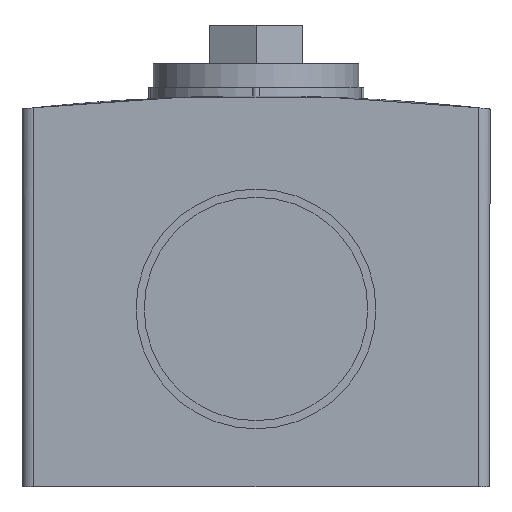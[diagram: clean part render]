
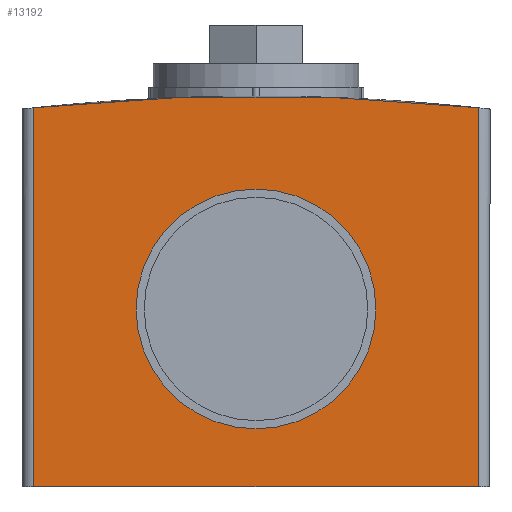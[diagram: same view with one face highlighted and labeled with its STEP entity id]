
A CAD part, front view. The second image highlights one B-rep face of the part: STEP entity #13192.
In plain terms, the highlighted planar face has unit normal (0, -1, 0).
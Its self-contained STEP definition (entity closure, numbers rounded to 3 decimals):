
#408 = CIRCLE ( 'NONE', #9406, 10.25 ) ;
#427 = VERTEX_POINT ( 'NONE', #8679 ) ;
#797 = ORIENTED_EDGE ( 'NONE', *, *, #20157, .F. ) ;
#1366 = EDGE_LOOP ( 'NONE', ( #28063, #11557 ) ) ;
#1926 = EDGE_LOOP ( 'NONE', ( #16390, #797, #21048, #16143 ) ) ;
#4407 = CARTESIAN_POINT ( 'NONE',  ( 0., -45.5, 11.2 ) ) ;
#4851 = CARTESIAN_POINT ( 'NONE',  ( 19., -45.5, -14.25 ) ) ;
#4884 = CARTESIAN_POINT ( 'NONE',  ( 0., -45.5, 0.95 ) ) ;
#5349 = AXIS2_PLACEMENT_3D ( 'NONE', #4884, #21534, #7290 ) ;
#5634 = VECTOR ( 'NONE', #9771, 1000. ) ;
#6099 = CIRCLE ( 'NONE', #17228, 180. ) ;
#6461 = DIRECTION ( 'NONE',  ( 0., -1., 0. ) ) ;
#6531 = CARTESIAN_POINT ( 'NONE',  ( 19., -45.5, -14.25 ) ) ;
#7260 = DIRECTION ( 'NONE',  ( 1., 0., 0. ) ) ;
#7290 = DIRECTION ( 'NONE',  ( 0., 0., -1. ) ) ;
#7312 = CARTESIAN_POINT ( 'NONE',  ( 0., -45.5, -160.85 ) ) ;
#8476 = EDGE_CURVE ( 'NONE', #13623, #16086, #6099, .T. ) ;
#8679 = CARTESIAN_POINT ( 'NONE',  ( -19., -45.5, -14.25 ) ) ;
#9406 = AXIS2_PLACEMENT_3D ( 'NONE', #20725, #6461, #23124 ) ;
#9562 = PLANE ( 'NONE',  #26483 ) ;
#9710 = DIRECTION ( 'NONE',  ( 1., 0., 0. ) ) ;
#9771 = DIRECTION ( 'NONE',  ( 0., 0., 1. ) ) ;
#10059 = EDGE_CURVE ( 'NONE', #427, #21512, #16986, .T. ) ;
#10488 = LINE ( 'NONE', #17295, #21648 ) ;
#11557 = ORIENTED_EDGE ( 'NONE', *, *, #21056, .F. ) ;
#11986 = LINE ( 'NONE', #23934, #5634 ) ;
#13192 = ADVANCED_FACE ( 'NONE', ( #21234, #27549 ), #9562, .T. ) ;
#13623 = VERTEX_POINT ( 'NONE', #25856 ) ;
#13757 = CIRCLE ( 'NONE', #5349, 10.25 ) ;
#15025 = EDGE_CURVE ( 'NONE', #16326, #19456, #13757, .T. ) ;
#16086 = VERTEX_POINT ( 'NONE', #17613 ) ;
#16143 = ORIENTED_EDGE ( 'NONE', *, *, #19714, .T. ) ;
#16326 = VERTEX_POINT ( 'NONE', #19862 ) ;
#16390 = ORIENTED_EDGE ( 'NONE', *, *, #8476, .T. ) ;
#16986 = LINE ( 'NONE', #25807, #28882 ) ;
#17228 = AXIS2_PLACEMENT_3D ( 'NONE', #7312, #23966, #9710 ) ;
#17295 = CARTESIAN_POINT ( 'NONE',  ( 19., -45.5, -14.25 ) ) ;
#17613 = CARTESIAN_POINT ( 'NONE',  ( -19., -45.5, 18.144 ) ) ;
#19456 = VERTEX_POINT ( 'NONE', #4407 ) ;
#19714 = EDGE_CURVE ( 'NONE', #21512, #13623, #10488, .T. ) ;
#19862 = CARTESIAN_POINT ( 'NONE',  ( 0., -45.5, -9.3 ) ) ;
#20157 = EDGE_CURVE ( 'NONE', #427, #16086, #11986, .T. ) ;
#20725 = CARTESIAN_POINT ( 'NONE',  ( 0., -45.5, 0.95 ) ) ;
#21048 = ORIENTED_EDGE ( 'NONE', *, *, #10059, .T. ) ;
#21056 = EDGE_CURVE ( 'NONE', #19456, #16326, #408, .T. ) ;
#21234 = FACE_OUTER_BOUND ( 'NONE', #1926, .T. ) ;
#21499 = DIRECTION ( 'NONE',  ( 0., -1., 0. ) ) ;
#21512 = VERTEX_POINT ( 'NONE', #6531 ) ;
#21534 = DIRECTION ( 'NONE',  ( 0., -1., 0. ) ) ;
#21648 = VECTOR ( 'NONE', #24480, 1000. ) ;
#23124 = DIRECTION ( 'NONE',  ( 0., 0., -1. ) ) ;
#23934 = CARTESIAN_POINT ( 'NONE',  ( -19., -45.5, -14.25 ) ) ;
#23966 = DIRECTION ( 'NONE',  ( 0., -1., 0. ) ) ;
#24480 = DIRECTION ( 'NONE',  ( 0., 0., 1. ) ) ;
#25807 = CARTESIAN_POINT ( 'NONE',  ( 19., -45.5, -14.25 ) ) ;
#25856 = CARTESIAN_POINT ( 'NONE',  ( 19., -45.5, 18.144 ) ) ;
#26483 = AXIS2_PLACEMENT_3D ( 'NONE', #4851, #21499, #7260 ) ;
#27549 = FACE_BOUND ( 'NONE', #1366, .T. ) ;
#28063 = ORIENTED_EDGE ( 'NONE', *, *, #15025, .F. ) ;
#28882 = VECTOR ( 'NONE', #30567, 1000. ) ;
#30567 = DIRECTION ( 'NONE',  ( 1., 0., 0. ) ) ;
